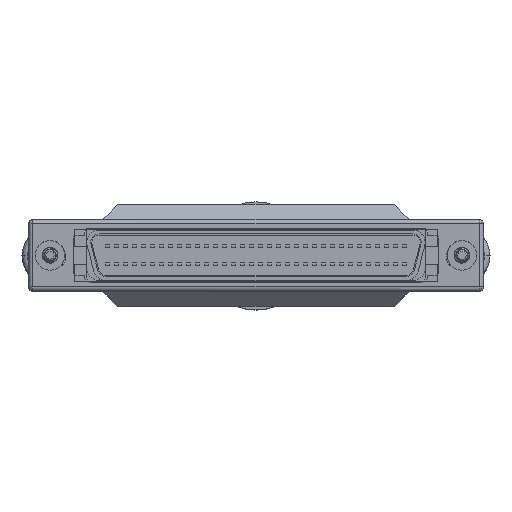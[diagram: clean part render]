
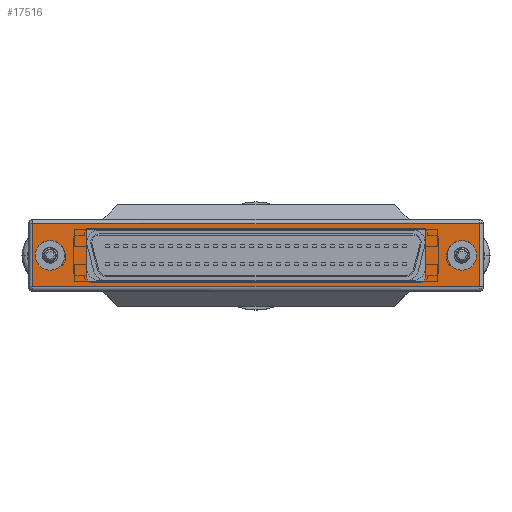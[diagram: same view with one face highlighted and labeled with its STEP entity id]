
A CAD part, top view. The second image highlights one B-rep face of the part: STEP entity #17516.
In plain terms, the highlighted planar face has unit normal (0, 0, 1).
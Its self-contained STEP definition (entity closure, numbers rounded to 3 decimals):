
#438 = VECTOR ( 'NONE', #4512, 1000. ) ;
#696 = CARTESIAN_POINT ( 'NONE',  ( 23.203, -3.81, 0. ) ) ;
#771 = DIRECTION ( 'NONE',  ( -1., 0., 0. ) ) ;
#1773 = PLANE ( 'NONE',  #1843 ) ;
#1843 = AXIS2_PLACEMENT_3D ( 'NONE', #27946, #41033, #21720 ) ;
#2739 = CARTESIAN_POINT ( 'NONE',  ( 31.432, -5.08, 0. ) ) ;
#2813 = LINE ( 'NONE', #6039, #30566 ) ;
#3471 = CIRCLE ( 'NONE', #15801, 0.635 ) ;
#3590 = ORIENTED_EDGE ( 'NONE', *, *, #42236, .T. ) ;
#4096 = CIRCLE ( 'NONE', #6861, 0.635 ) ;
#4512 = DIRECTION ( 'NONE',  ( -1., 0., 0. ) ) ;
#4895 = DIRECTION ( 'NONE',  ( 0., 0., -1. ) ) ;
#5109 = DIRECTION ( 'NONE',  ( 1., 0., 0. ) ) ;
#5339 = DIRECTION ( 'NONE',  ( -1., 0., 0. ) ) ;
#5399 = CARTESIAN_POINT ( 'NONE',  ( 23.838, -3.175, 0. ) ) ;
#5994 = EDGE_CURVE ( 'NONE', #23389, #7945, #26564, .T. ) ;
#6039 = CARTESIAN_POINT ( 'NONE',  ( -32.068, 3.81, 0. ) ) ;
#6861 = AXIS2_PLACEMENT_3D ( 'NONE', #8824, #13113, #26635 ) ;
#7412 = ORIENTED_EDGE ( 'NONE', *, *, #16355, .T. ) ;
#7945 = VERTEX_POINT ( 'NONE', #34156 ) ;
#8824 = CARTESIAN_POINT ( 'NONE',  ( 23.203, -3.175, 0. ) ) ;
#10252 = DIRECTION ( 'NONE',  ( -1., 0., 0. ) ) ;
#11199 = CARTESIAN_POINT ( 'NONE',  ( 23.838, -5.08, 0. ) ) ;
#12070 = VECTOR ( 'NONE', #23488, 1000. ) ;
#12125 = CARTESIAN_POINT ( 'NONE',  ( -26.937, 0., 0. ) ) ;
#12626 = AXIS2_PLACEMENT_3D ( 'NONE', #37289, #4895, #40504 ) ;
#13113 = DIRECTION ( 'NONE',  ( 0., 0., -1. ) ) ;
#13838 = EDGE_CURVE ( 'NONE', #14998, #27008, #18016, .T. ) ;
#14596 = CARTESIAN_POINT ( 'NONE',  ( -23.838, -5.08, 0. ) ) ;
#14903 = ORIENTED_EDGE ( 'NONE', *, *, #19045, .T. ) ;
#14998 = VERTEX_POINT ( 'NONE', #696 ) ;
#15176 = CARTESIAN_POINT ( 'NONE',  ( -31.102, 0., 0. ) ) ;
#15222 = EDGE_CURVE ( 'NONE', #16085, #36453, #31718, .T. ) ;
#15801 = AXIS2_PLACEMENT_3D ( 'NONE', #33775, #37426, #17477 ) ;
#15983 = EDGE_LOOP ( 'NONE', ( #41955, #14903, #38641, #25999 ) ) ;
#16085 = VERTEX_POINT ( 'NONE', #17017 ) ;
#16355 = EDGE_CURVE ( 'NONE', #22822, #16085, #2813, .T. ) ;
#16645 = EDGE_CURVE ( 'NONE', #24885, #26682, #33903, .T. ) ;
#17017 = CARTESIAN_POINT ( 'NONE',  ( 23.838, 3.81, 0. ) ) ;
#17204 = CARTESIAN_POINT ( 'NONE',  ( -29.02, 0., 0. ) ) ;
#17477 = DIRECTION ( 'NONE',  ( -1., 0., 0. ) ) ;
#17516 = ADVANCED_FACE ( 'NONE', ( #18086, #24727, #17876, #31165 ), #1773, .T. ) ;
#17876 = FACE_BOUND ( 'NONE', #19170, .T. ) ;
#18016 = LINE ( 'NONE', #34731, #26986 ) ;
#18086 = FACE_BOUND ( 'NONE', #31637, .T. ) ;
#18598 = AXIS2_PLACEMENT_3D ( 'NONE', #31479, #31898, #5109 ) ;
#18835 = LINE ( 'NONE', #2739, #35347 ) ;
#19045 = EDGE_CURVE ( 'NONE', #7945, #26682, #20267, .T. ) ;
#19125 = ORIENTED_EDGE ( 'NONE', *, *, #26323, .T. ) ;
#19170 = EDGE_LOOP ( 'NONE', ( #19125, #24336, #23933, #40398, #7412, #41643 ) ) ;
#19873 = CARTESIAN_POINT ( 'NONE',  ( 29.02, 0., 0. ) ) ;
#20057 = CARTESIAN_POINT ( 'NONE',  ( -31.433, -5.08, 0. ) ) ;
#20262 = EDGE_CURVE ( 'NONE', #24885, #23389, #18835, .T. ) ;
#20267 = LINE ( 'NONE', #20057, #12070 ) ;
#21084 = CARTESIAN_POINT ( 'NONE',  ( 31.433, -4.445, 0. ) ) ;
#21543 = CIRCLE ( 'NONE', #12626, 2.083 ) ;
#21720 = DIRECTION ( 'NONE',  ( 1., 0., 0. ) ) ;
#21759 = CARTESIAN_POINT ( 'NONE',  ( 31.102, 0., 0. ) ) ;
#21882 = VECTOR ( 'NONE', #27472, 1000. ) ;
#22336 = CIRCLE ( 'NONE', #24400, 2.083 ) ;
#22596 = VERTEX_POINT ( 'NONE', #24306 ) ;
#22732 = EDGE_LOOP ( 'NONE', ( #3590, #40289 ) ) ;
#22822 = VERTEX_POINT ( 'NONE', #26415 ) ;
#22932 = EDGE_CURVE ( 'NONE', #39866, #22822, #36499, .T. ) ;
#23389 = VERTEX_POINT ( 'NONE', #39127 ) ;
#23488 = DIRECTION ( 'NONE',  ( 0., -1., 0. ) ) ;
#23933 = ORIENTED_EDGE ( 'NONE', *, *, #30114, .T. ) ;
#24306 = CARTESIAN_POINT ( 'NONE',  ( 26.937, 0., 0. ) ) ;
#24336 = ORIENTED_EDGE ( 'NONE', *, *, #13838, .T. ) ;
#24400 = AXIS2_PLACEMENT_3D ( 'NONE', #19873, #32958, #771 ) ;
#24591 = ORIENTED_EDGE ( 'NONE', *, *, #37233, .T. ) ;
#24727 = FACE_BOUND ( 'NONE', #22732, .T. ) ;
#24885 = VERTEX_POINT ( 'NONE', #21084 ) ;
#25213 = CIRCLE ( 'NONE', #36897, 2.083 ) ;
#25999 = ORIENTED_EDGE ( 'NONE', *, *, #20262, .T. ) ;
#26323 = EDGE_CURVE ( 'NONE', #36453, #14998, #4096, .T. ) ;
#26415 = CARTESIAN_POINT ( 'NONE',  ( -23.838, 3.81, 0. ) ) ;
#26564 = LINE ( 'NONE', #35997, #30497 ) ;
#26635 = DIRECTION ( 'NONE',  ( -1., 0., 0. ) ) ;
#26682 = VERTEX_POINT ( 'NONE', #31326 ) ;
#26986 = VECTOR ( 'NONE', #5339, 1000. ) ;
#27008 = VERTEX_POINT ( 'NONE', #31062 ) ;
#27472 = DIRECTION ( 'NONE',  ( 0., 1., 0. ) ) ;
#27946 = CARTESIAN_POINT ( 'NONE',  ( -32.068, -5.08, 0. ) ) ;
#28078 = VERTEX_POINT ( 'NONE', #15176 ) ;
#28201 = CIRCLE ( 'NONE', #18598, 2.083 ) ;
#29278 = VERTEX_POINT ( 'NONE', #12125 ) ;
#29834 = VECTOR ( 'NONE', #37380, 1000. ) ;
#30081 = DIRECTION ( 'NONE',  ( 1., 0., 0. ) ) ;
#30114 = EDGE_CURVE ( 'NONE', #27008, #39866, #3471, .T. ) ;
#30296 = DIRECTION ( 'NONE',  ( 0., 0., -1. ) ) ;
#30497 = VECTOR ( 'NONE', #10252, 1000. ) ;
#30566 = VECTOR ( 'NONE', #42086, 1000. ) ;
#31062 = CARTESIAN_POINT ( 'NONE',  ( -23.203, -3.81, 0. ) ) ;
#31165 = FACE_OUTER_BOUND ( 'NONE', #15983, .T. ) ;
#31326 = CARTESIAN_POINT ( 'NONE',  ( -31.433, -4.445, 0. ) ) ;
#31479 = CARTESIAN_POINT ( 'NONE',  ( -29.02, 0., 0. ) ) ;
#31482 = EDGE_CURVE ( 'NONE', #28078, #29278, #28201, .T. ) ;
#31637 = EDGE_LOOP ( 'NONE', ( #38299, #24591 ) ) ;
#31718 = LINE ( 'NONE', #11199, #29834 ) ;
#31898 = DIRECTION ( 'NONE',  ( 0., 0., -1. ) ) ;
#32579 = CARTESIAN_POINT ( 'NONE',  ( -23.838, -3.175, 0. ) ) ;
#32958 = DIRECTION ( 'NONE',  ( 0., 0., -1. ) ) ;
#33363 = DIRECTION ( 'NONE',  ( 0., 1., 0. ) ) ;
#33775 = CARTESIAN_POINT ( 'NONE',  ( -23.203, -3.175, 0. ) ) ;
#33903 = LINE ( 'NONE', #40350, #438 ) ;
#34156 = CARTESIAN_POINT ( 'NONE',  ( -31.433, 4.445, 0. ) ) ;
#34731 = CARTESIAN_POINT ( 'NONE',  ( -32.068, -3.81, 0. ) ) ;
#35347 = VECTOR ( 'NONE', #33363, 1000. ) ;
#35967 = VERTEX_POINT ( 'NONE', #21759 ) ;
#35997 = CARTESIAN_POINT ( 'NONE',  ( -32.068, 4.445, 0. ) ) ;
#36453 = VERTEX_POINT ( 'NONE', #5399 ) ;
#36499 = LINE ( 'NONE', #14596, #21882 ) ;
#36897 = AXIS2_PLACEMENT_3D ( 'NONE', #17204, #30296, #30081 ) ;
#37233 = EDGE_CURVE ( 'NONE', #35967, #22596, #21543, .T. ) ;
#37289 = CARTESIAN_POINT ( 'NONE',  ( 29.02, 0., 0. ) ) ;
#37380 = DIRECTION ( 'NONE',  ( 0., -1., 0. ) ) ;
#37426 = DIRECTION ( 'NONE',  ( 0., 0., -1. ) ) ;
#38299 = ORIENTED_EDGE ( 'NONE', *, *, #38943, .T. ) ;
#38641 = ORIENTED_EDGE ( 'NONE', *, *, #16645, .F. ) ;
#38943 = EDGE_CURVE ( 'NONE', #22596, #35967, #22336, .T. ) ;
#39127 = CARTESIAN_POINT ( 'NONE',  ( 31.433, 4.445, 0. ) ) ;
#39866 = VERTEX_POINT ( 'NONE', #32579 ) ;
#40289 = ORIENTED_EDGE ( 'NONE', *, *, #31482, .T. ) ;
#40350 = CARTESIAN_POINT ( 'NONE',  ( 32.189, -4.445, 0. ) ) ;
#40398 = ORIENTED_EDGE ( 'NONE', *, *, #22932, .T. ) ;
#40504 = DIRECTION ( 'NONE',  ( -1., 0., 0. ) ) ;
#41033 = DIRECTION ( 'NONE',  ( 0., 0., 1. ) ) ;
#41643 = ORIENTED_EDGE ( 'NONE', *, *, #15222, .T. ) ;
#41955 = ORIENTED_EDGE ( 'NONE', *, *, #5994, .T. ) ;
#42086 = DIRECTION ( 'NONE',  ( 1., 0., 0. ) ) ;
#42236 = EDGE_CURVE ( 'NONE', #29278, #28078, #25213, .T. ) ;
